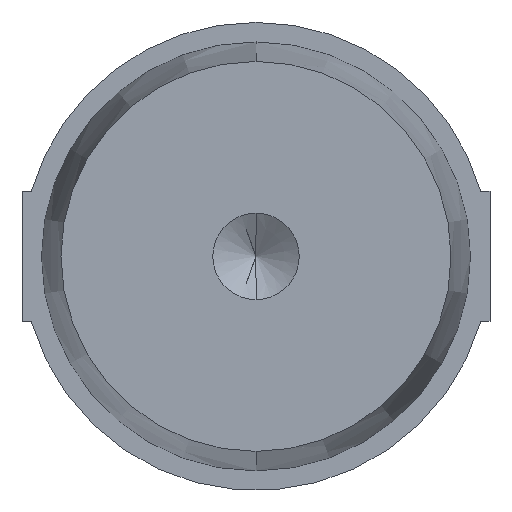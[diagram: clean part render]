
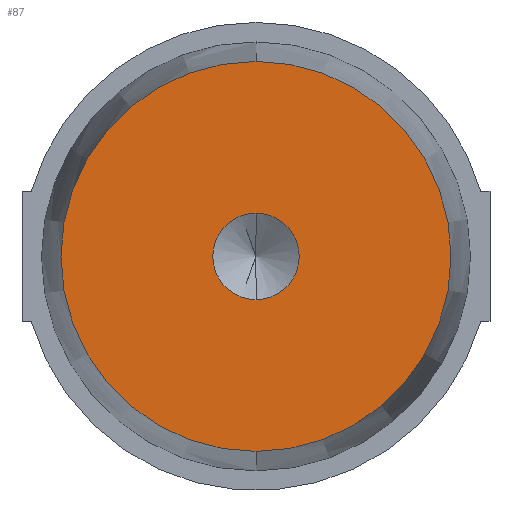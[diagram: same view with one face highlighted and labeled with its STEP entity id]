
A CAD part, front view. The second image highlights one B-rep face of the part: STEP entity #87.
In plain terms, the highlighted planar face has unit normal (0, -1, 0).
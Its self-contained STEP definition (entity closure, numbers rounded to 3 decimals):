
#10 = AXIS2_PLACEMENT_3D ( 'NONE', #831, #904, #983 ) ;
#41 = CARTESIAN_POINT ( 'NONE',  ( 0., 0., 3.323 ) ) ;
#87 = ADVANCED_FACE ( 'NONE', ( #430, #930 ), #478, .F. ) ;
#115 = VERTEX_POINT ( 'NONE', #116 ) ;
#116 = CARTESIAN_POINT ( 'NONE',  ( 0., 0., -3.323 ) ) ;
#143 = CARTESIAN_POINT ( 'NONE',  ( 0., 0., 0. ) ) ;
#176 = EDGE_CURVE ( 'NONE', #115, #250, #563, .T. ) ;
#205 = VERTEX_POINT ( 'NONE', #281 ) ;
#206 = DIRECTION ( 'NONE',  ( 0., 1., 0. ) ) ;
#245 = CIRCLE ( 'NONE', #724, 15. ) ;
#250 = VERTEX_POINT ( 'NONE', #41 ) ;
#275 = EDGE_LOOP ( 'NONE', ( #632, #463 ) ) ;
#281 = CARTESIAN_POINT ( 'NONE',  ( 0., 0., 15. ) ) ;
#283 = CIRCLE ( 'NONE', #916, 15. ) ;
#336 = DIRECTION ( 'NONE',  ( 0., 1., 0. ) ) ;
#339 = AXIS2_PLACEMENT_3D ( 'NONE', #627, #336, #864 ) ;
#343 = CARTESIAN_POINT ( 'NONE',  ( 0., 0., 0. ) ) ;
#379 = EDGE_CURVE ( 'NONE', #766, #205, #245, .T. ) ;
#384 = CIRCLE ( 'NONE', #658, 3.323 ) ;
#430 = FACE_BOUND ( 'NONE', #275, .T. ) ;
#463 = ORIENTED_EDGE ( 'NONE', *, *, #752, .F. ) ;
#476 = ORIENTED_EDGE ( 'NONE', *, *, #379, .F. ) ;
#478 = PLANE ( 'NONE',  #339 ) ;
#490 = CARTESIAN_POINT ( 'NONE',  ( 0., 0., -15. ) ) ;
#520 = DIRECTION ( 'NONE',  ( 0., 0., 1. ) ) ;
#557 = ORIENTED_EDGE ( 'NONE', *, *, #861, .F. ) ;
#563 = CIRCLE ( 'NONE', #10, 3.323 ) ;
#591 = EDGE_LOOP ( 'NONE', ( #557, #476 ) ) ;
#599 = CARTESIAN_POINT ( 'NONE',  ( 0., 0., 0. ) ) ;
#627 = CARTESIAN_POINT ( 'NONE',  ( 15., 0., 0. ) ) ;
#632 = ORIENTED_EDGE ( 'NONE', *, *, #176, .F. ) ;
#658 = AXIS2_PLACEMENT_3D ( 'NONE', #343, #793, #725 ) ;
#724 = AXIS2_PLACEMENT_3D ( 'NONE', #143, #767, #856 ) ;
#725 = DIRECTION ( 'NONE',  ( 0., 0., -1. ) ) ;
#752 = EDGE_CURVE ( 'NONE', #250, #115, #384, .T. ) ;
#766 = VERTEX_POINT ( 'NONE', #490 ) ;
#767 = DIRECTION ( 'NONE',  ( 0., 1., 0. ) ) ;
#793 = DIRECTION ( 'NONE',  ( 0., -1., 0. ) ) ;
#831 = CARTESIAN_POINT ( 'NONE',  ( 0., 0., 0. ) ) ;
#856 = DIRECTION ( 'NONE',  ( 0., 0., 1. ) ) ;
#861 = EDGE_CURVE ( 'NONE', #205, #766, #283, .T. ) ;
#864 = DIRECTION ( 'NONE',  ( 0., 0., 1. ) ) ;
#904 = DIRECTION ( 'NONE',  ( 0., -1., 0. ) ) ;
#916 = AXIS2_PLACEMENT_3D ( 'NONE', #599, #206, #520 ) ;
#930 = FACE_OUTER_BOUND ( 'NONE', #591, .T. ) ;
#983 = DIRECTION ( 'NONE',  ( 0., 0., -1. ) ) ;
